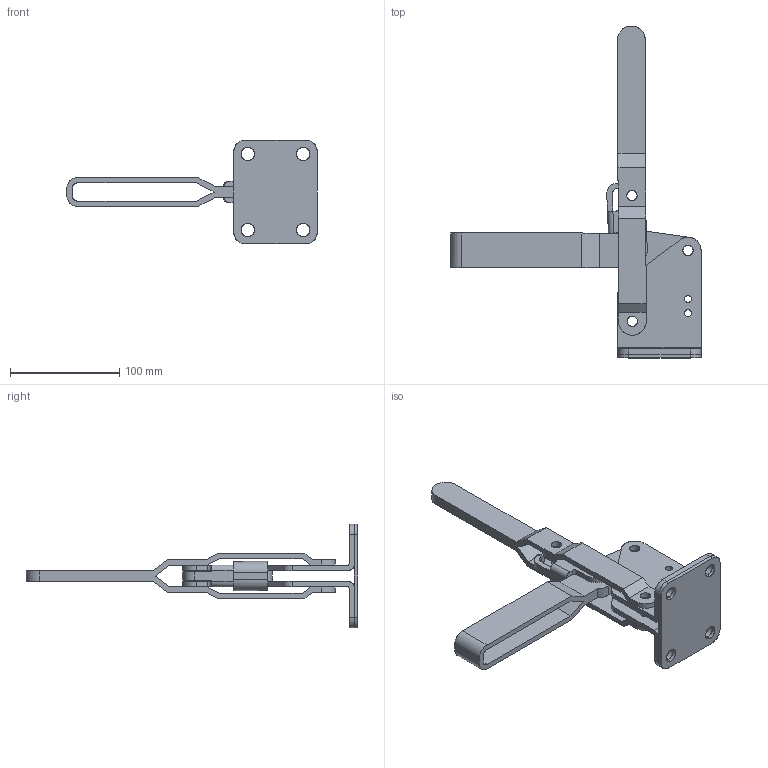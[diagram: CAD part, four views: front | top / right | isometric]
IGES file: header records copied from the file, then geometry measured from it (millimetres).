
Start section: Comment
Global section: file name: 101j.igs; native system:  By Spatial Corp.; preprocessor: XPlus PS/IGES 3.0; author: Author; organization: Title; date: 20050216.163444; units: inch
Bounding box: 229.2 x 304.1 x 95.2 mm (x, y, z)
Surface area: 125613.1 mm2 (no closed solid volume)
Topology: 0 solids, 0 shells, 179 faces, 1010 edges, 1010 vertices
Faces by surface type: revolution 94, extrusion 85
